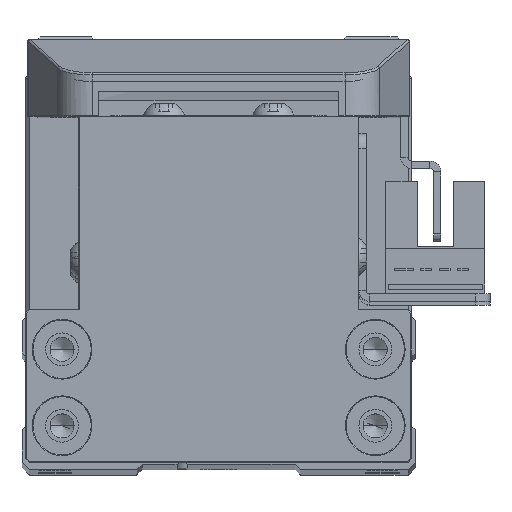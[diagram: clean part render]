
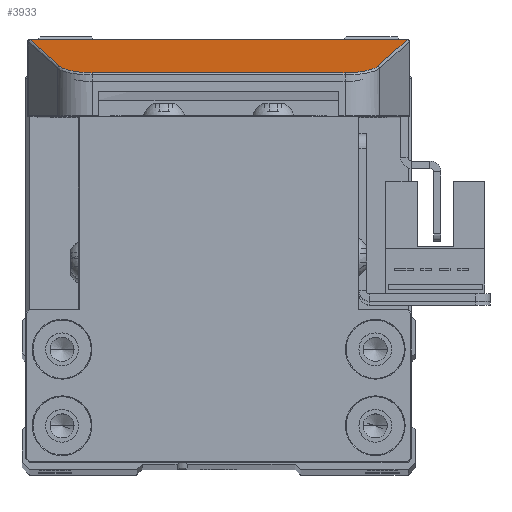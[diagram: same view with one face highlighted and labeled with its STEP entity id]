
A CAD part, top view. The second image highlights one B-rep face of the part: STEP entity #3933.
In plain terms, the highlighted planar face has unit normal (0, 0.962, 0.274) as drawn and (0, 0.274, 0.962) by its records, which use the part's own axes.
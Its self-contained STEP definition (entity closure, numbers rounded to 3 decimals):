
#942 = LINE ( 'NONE', #2247, #18996 ) ;
#1134 = CARTESIAN_POINT ( 'NONE',  ( -19.466, 25.282, -4.638 ) ) ;
#1572 = LINE ( 'NONE', #20845, #20387 ) ;
#1741 = VERTEX_POINT ( 'NONE', #17998 ) ;
#1943 = ORIENTED_EDGE ( 'NONE', *, *, #23892, .T. ) ;
#2006 = ORIENTED_EDGE ( 'NONE', *, *, #3554, .T. ) ;
#2247 = CARTESIAN_POINT ( 'NONE',  ( 15.221, 42.754, -9.615 ) ) ;
#2257 = EDGE_CURVE ( 'NONE', #10861, #28735, #14628, .T. ) ;
#2528 = FACE_OUTER_BOUND ( 'NONE', #6511, .T. ) ;
#2715 = VECTOR ( 'NONE', #30433, 1000. ) ;
#2869 = CARTESIAN_POINT ( 'NONE',  ( 25.874, 9.275, -0.078 ) ) ;
#3554 = EDGE_CURVE ( 'NONE', #1741, #12619, #30301, .T. ) ;
#3837 = ORIENTED_EDGE ( 'NONE', *, *, #31115, .T. ) ;
#3933 = ADVANCED_FACE ( 'NONE', ( #2528 ), #18788, .F. ) ;
#3994 = VECTOR ( 'NONE', #23726, 1000. ) ;
#4066 = CARTESIAN_POINT ( 'NONE',  ( -43.406, 25.5, -4.7 ) ) ;
#4079 = CARTESIAN_POINT ( 'NONE',  ( -17.344, 25.282, -4.638 ) ) ;
#4402 = CARTESIAN_POINT ( 'NONE',  ( 25.87, 9.287, -0.082 ) ) ;
#5925 = CARTESIAN_POINT ( 'NONE',  ( -22.655, 19.393, -2.96 ) ) ;
#6511 = EDGE_LOOP ( 'NONE', ( #1943, #11653, #19202, #16337, #7289, #30604, #3837, #2006 ) ) ;
#6918 = EDGE_CURVE ( 'NONE', #19886, #19761, #21010, .T. ) ;
#7028 = CARTESIAN_POINT ( 'NONE',  ( 21.179, 24.03, -4.281 ) ) ;
#7289 = ORIENTED_EDGE ( 'NONE', *, *, #12192, .T. ) ;
#8561 = AXIS2_PLACEMENT_3D ( 'NONE', #4066, #28599, #13952 ) ;
#8584 = VERTEX_POINT ( 'NONE', #21697 ) ;
#8625 = CARTESIAN_POINT ( 'NONE',  ( 21.823, 22.007, -3.705 ) ) ;
#9455 = CARTESIAN_POINT ( 'NONE',  ( -25.874, 9.275, -0.078 ) ) ;
#10271 = CARTESIAN_POINT ( 'NONE',  ( 25.87, 9.287, -0.082 ) ) ;
#10861 = VERTEX_POINT ( 'NONE', #8625 ) ;
#10992 = CARTESIAN_POINT ( 'NONE',  ( -21.823, 22.007, -3.705 ) ) ;
#11653 = ORIENTED_EDGE ( 'NONE', *, *, #6918, .T. ) ;
#11824 = CARTESIAN_POINT ( 'NONE',  ( -25.87, 9.287, -0.082 ) ) ;
#11949 = CARTESIAN_POINT ( 'NONE',  ( 17.344, 25.282, -4.638 ) ) ;
#12192 = EDGE_CURVE ( 'NONE', #28735, #17360, #30047, .T. ) ;
#12553 =( BOUNDED_CURVE ( )  B_SPLINE_CURVE ( 3, ( #18319, #1134, #25656, #10992 ),
 .UNSPECIFIED., .F., .F. ) 
 B_SPLINE_CURVE_WITH_KNOTS ( ( 4, 4 ),
 ( 0., 1.263 ),
 .UNSPECIFIED. ) 
 CURVE ( )  GEOMETRIC_REPRESENTATION_ITEM ( )  RATIONAL_B_SPLINE_CURVE ( ( 1., 0.871, 0.871, 1. ) ) 
 REPRESENTATION_ITEM ( '' )  );
#12619 = VERTEX_POINT ( 'NONE', #20376 ) ;
#13952 = DIRECTION ( 'NONE',  ( 0., 0.962, -0.274 ) ) ;
#14628 =( BOUNDED_CURVE ( )  B_SPLINE_CURVE ( 3, ( #24067, #7028, #21734, #11949 ),
 .UNSPECIFIED., .F., .T. ) 
 B_SPLINE_CURVE_WITH_KNOTS ( ( 4, 4 ),
 ( 5.02, 6.283 ),
 .UNSPECIFIED. ) 
 CURVE ( )  GEOMETRIC_REPRESENTATION_ITEM ( )  RATIONAL_B_SPLINE_CURVE ( ( 1., 0.871, 0.871, 1. ) ) 
 REPRESENTATION_ITEM ( '' )  );
#15885 = DIRECTION ( 'NONE',  ( 1., 0., 0. ) ) ;
#16337 = ORIENTED_EDGE ( 'NONE', *, *, #2257, .T. ) ;
#16394 = EDGE_CURVE ( 'NONE', #19761, #10861, #942, .T. ) ;
#17360 = VERTEX_POINT ( 'NONE', #30456 ) ;
#17998 = CARTESIAN_POINT ( 'NONE',  ( -25.87, 9.287, -0.082 ) ) ;
#18319 = CARTESIAN_POINT ( 'NONE',  ( -17.344, 25.282, -4.638 ) ) ;
#18788 = PLANE ( 'NONE',  #8561 ) ;
#18996 = VECTOR ( 'NONE', #24345, 1000. ) ;
#19202 = ORIENTED_EDGE ( 'NONE', *, *, #16394, .T. ) ;
#19761 = VERTEX_POINT ( 'NONE', #4402 ) ;
#19886 = VERTEX_POINT ( 'NONE', #22247 ) ;
#20065 = CARTESIAN_POINT ( 'NONE',  ( 25.872, 9.281, -0.08 ) ) ;
#20376 = CARTESIAN_POINT ( 'NONE',  ( -25.876, 9.269, -0.077 ) ) ;
#20387 = VECTOR ( 'NONE', #15885, 1000. ) ;
#20845 = CARTESIAN_POINT ( 'NONE',  ( 26.25, 9.269, -0.077 ) ) ;
#21010 =( BOUNDED_CURVE ( )  B_SPLINE_CURVE ( 3, ( #24954, #2869, #20065, #10271 ),
 .UNSPECIFIED., .F., .T. ) 
 B_SPLINE_CURVE_WITH_KNOTS ( ( 4, 4 ),
 ( 5.009, 5.02 ),
 .UNSPECIFIED. ) 
 CURVE ( )  GEOMETRIC_REPRESENTATION_ITEM ( )  RATIONAL_B_SPLINE_CURVE ( ( 1., 1., 1., 1. ) ) 
 REPRESENTATION_ITEM ( '' )  );
#21697 = CARTESIAN_POINT ( 'NONE',  ( -21.823, 22.007, -3.705 ) ) ;
#21712 = CARTESIAN_POINT ( 'NONE',  ( -25.872, 9.281, -0.08 ) ) ;
#21734 = CARTESIAN_POINT ( 'NONE',  ( 19.466, 25.282, -4.638 ) ) ;
#22247 = CARTESIAN_POINT ( 'NONE',  ( 25.876, 9.269, -0.077 ) ) ;
#22344 = LINE ( 'NONE', #5925, #2715 ) ;
#23347 = EDGE_CURVE ( 'NONE', #17360, #8584, #12553, .T. ) ;
#23726 = DIRECTION ( 'NONE',  ( -1., 0., 0. ) ) ;
#23892 = EDGE_CURVE ( 'NONE', #12619, #19886, #1572, .T. ) ;
#24067 = CARTESIAN_POINT ( 'NONE',  ( 21.823, 22.007, -3.705 ) ) ;
#24345 = DIRECTION ( 'NONE',  ( -0.293, 0.92, -0.262 ) ) ;
#24954 = CARTESIAN_POINT ( 'NONE',  ( 25.876, 9.269, -0.077 ) ) ;
#25656 = CARTESIAN_POINT ( 'NONE',  ( -21.179, 24.03, -4.281 ) ) ;
#25774 = CARTESIAN_POINT ( 'NONE',  ( 17.344, 25.282, -4.638 ) ) ;
#26592 = CARTESIAN_POINT ( 'NONE',  ( -25.876, 9.269, -0.077 ) ) ;
#28599 = DIRECTION ( 'NONE',  ( 0., -0.274, -0.962 ) ) ;
#28735 = VERTEX_POINT ( 'NONE', #25774 ) ;
#30047 = LINE ( 'NONE', #4079, #3994 ) ;
#30301 =( BOUNDED_CURVE ( )  B_SPLINE_CURVE ( 3, ( #11824, #21712, #9455, #26592 ),
 .UNSPECIFIED., .F., .F. ) 
 B_SPLINE_CURVE_WITH_KNOTS ( ( 4, 4 ),
 ( 1.263, 1.274 ),
 .UNSPECIFIED. ) 
 CURVE ( )  GEOMETRIC_REPRESENTATION_ITEM ( )  RATIONAL_B_SPLINE_CURVE ( ( 1., 1., 1., 1. ) ) 
 REPRESENTATION_ITEM ( '' )  );
#30433 = DIRECTION ( 'NONE',  ( -0.293, -0.92, 0.262 ) ) ;
#30456 = CARTESIAN_POINT ( 'NONE',  ( -17.344, 25.282, -4.638 ) ) ;
#30604 = ORIENTED_EDGE ( 'NONE', *, *, #23347, .T. ) ;
#31115 = EDGE_CURVE ( 'NONE', #8584, #1741, #22344, .T. ) ;
